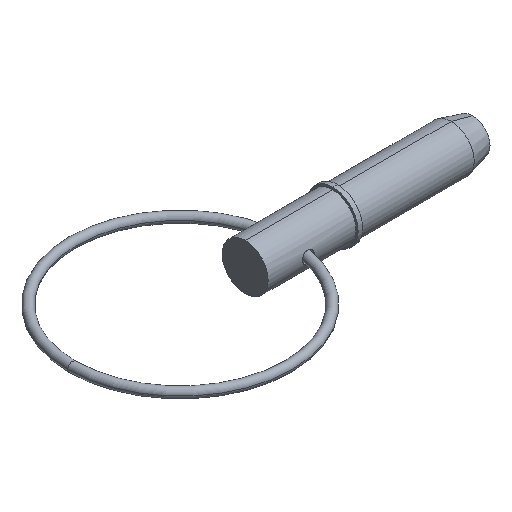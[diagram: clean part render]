
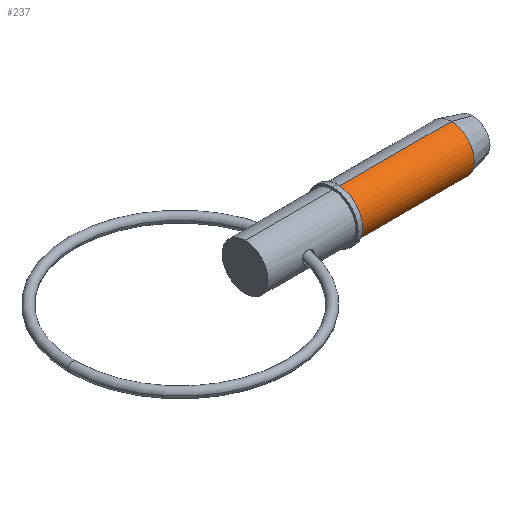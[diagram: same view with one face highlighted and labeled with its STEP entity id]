
A CAD part, isometric view. The second image highlights one B-rep face of the part: STEP entity #237.
In plain terms, the highlighted cylindrical face has radius 4.765 mm (diameter 9.53 mm), a partial arc.
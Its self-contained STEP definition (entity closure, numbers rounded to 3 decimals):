
#3 = CARTESIAN_POINT ( 'NONE',  ( 19.05, 0., 4.765 ) ) ;
#7 = EDGE_CURVE ( 'NONE', #484, #19, #726, .T. ) ;
#19 = VERTEX_POINT ( 'NONE', #114 ) ;
#36 = VECTOR ( 'NONE', #179, 1000. ) ;
#75 = EDGE_CURVE ( 'NONE', #758, #104, #187, .T. ) ;
#88 = AXIS2_PLACEMENT_3D ( 'NONE', #380, #702, #626 ) ;
#104 = VERTEX_POINT ( 'NONE', #828 ) ;
#110 = CARTESIAN_POINT ( 'NONE',  ( 0., 0., 4.765 ) ) ;
#114 = CARTESIAN_POINT ( 'NONE',  ( 42.544, 0., -4.765 ) ) ;
#142 = CARTESIAN_POINT ( 'NONE',  ( 0., 0., 0. ) ) ;
#179 = DIRECTION ( 'NONE',  ( 1., 0., 0. ) ) ;
#187 = LINE ( 'NONE', #110, #620 ) ;
#223 = ORIENTED_EDGE ( 'NONE', *, *, #75, .F. ) ;
#237 = ADVANCED_FACE ( 'NONE', ( #823 ), #292, .T. ) ;
#247 = CIRCLE ( 'NONE', #88, 4.765 ) ;
#292 = CYLINDRICAL_SURFACE ( 'NONE', #411, 4.765 ) ;
#308 = DIRECTION ( 'NONE',  ( 0., 0., -1. ) ) ;
#323 = ORIENTED_EDGE ( 'NONE', *, *, #729, .F. ) ;
#331 = CARTESIAN_POINT ( 'NONE',  ( 0., 0., -4.765 ) ) ;
#355 = DIRECTION ( 'NONE',  ( 0., 0., -1. ) ) ;
#377 = DIRECTION ( 'NONE',  ( 1., 0., 0. ) ) ;
#380 = CARTESIAN_POINT ( 'NONE',  ( 42.544, 0., 0. ) ) ;
#381 = ORIENTED_EDGE ( 'NONE', *, *, #743, .T. ) ;
#411 = AXIS2_PLACEMENT_3D ( 'NONE', #142, #598, #355 ) ;
#484 = VERTEX_POINT ( 'NONE', #665 ) ;
#598 = DIRECTION ( 'NONE',  ( 1., 0., 0. ) ) ;
#620 = VECTOR ( 'NONE', #643, 1000. ) ;
#626 = DIRECTION ( 'NONE',  ( 0., 0., -1. ) ) ;
#643 = DIRECTION ( 'NONE',  ( 1., 0., 0. ) ) ;
#665 = CARTESIAN_POINT ( 'NONE',  ( 19.05, 0., -4.765 ) ) ;
#702 = DIRECTION ( 'NONE',  ( 1., 0., 0. ) ) ;
#713 = ORIENTED_EDGE ( 'NONE', *, *, #7, .T. ) ;
#726 = LINE ( 'NONE', #331, #36 ) ;
#729 = EDGE_CURVE ( 'NONE', #104, #19, #247, .T. ) ;
#743 = EDGE_CURVE ( 'NONE', #758, #484, #853, .T. ) ;
#758 = VERTEX_POINT ( 'NONE', #3 ) ;
#778 = EDGE_LOOP ( 'NONE', ( #223, #381, #713, #323 ) ) ;
#823 = FACE_OUTER_BOUND ( 'NONE', #778, .T. ) ;
#828 = CARTESIAN_POINT ( 'NONE',  ( 42.544, 0., 4.765 ) ) ;
#853 = CIRCLE ( 'NONE', #1002, 4.765 ) ;
#1002 = AXIS2_PLACEMENT_3D ( 'NONE', #1013, #377, #308 ) ;
#1013 = CARTESIAN_POINT ( 'NONE',  ( 19.05, 0., 0. ) ) ;
